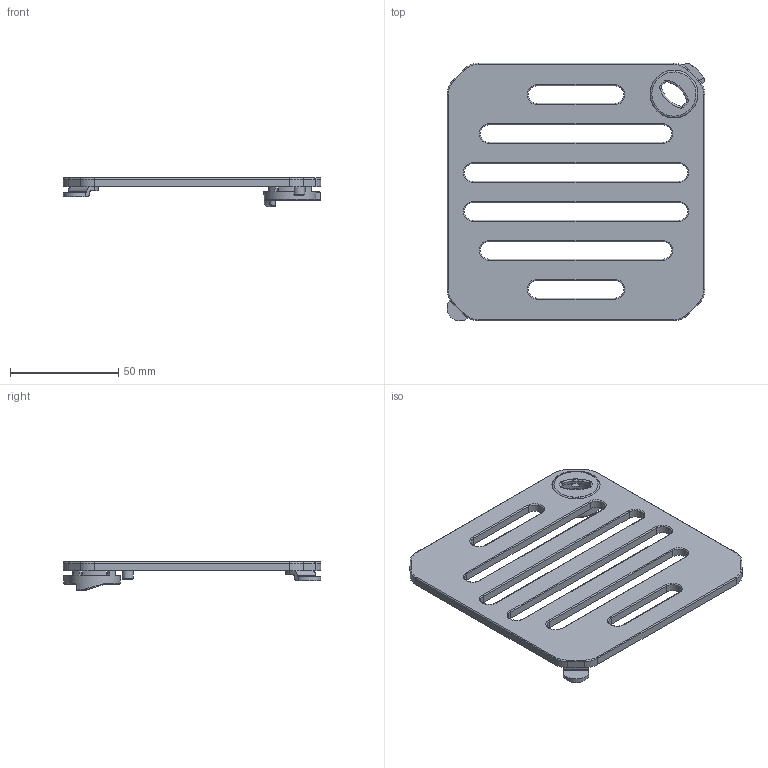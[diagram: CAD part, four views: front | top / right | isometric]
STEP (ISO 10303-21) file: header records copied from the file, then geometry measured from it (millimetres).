
FILE_DESCRIPTION(/* description */ (''),/* implementation_level */ '2;1');
FILE_NAME(/* name */ 'C:\Planerdaten\Export PLA\388.107.00.1\stp\388107.stp',/* time_stamp */ '2022-08-31T08:01:02+02:00',/* author */ ('JANAN'),/* organization */ (''),/* preprocessor_version */ 'ST-DEVELOPER v18.1',/* originating_system */ 'Autodesk Inventor 2021',/* authorisation */ '');
FILE_SCHEMA (('AUTOMOTIVE_DESIGN { 1 0 10303 214 3 1 1 }'));
Length unit declared in the file: millimetre
Products named in the file (1): tmp1995.tmp
Bounding box: 119 x 119 x 13.6 mm (x, y, z)
Volume: 41693 mm3; surface area: 28703.5 mm2
Topology: 3 solids, 3 shells, 284 faces, 742 edges, 467 vertices
Faces by surface type: cylinder 105, plane 83, torus 70, cone 12, bspline 11, sphere 3
Full cylindrical faces by diameter (mm): 5 x1, 16 x1, 18 x1, 20 x1, 21 x1, 22 x1, 22.2 x1
Entity records: 9981 total; most frequent: CARTESIAN_POINT 2578, DIRECTION 1575, ORIENTED_EDGE 1478, EDGE_CURVE 739, AXIS2_PLACEMENT_3D 671, VERTEX_POINT 467, CIRCLE 374, EDGE_LOOP 308
